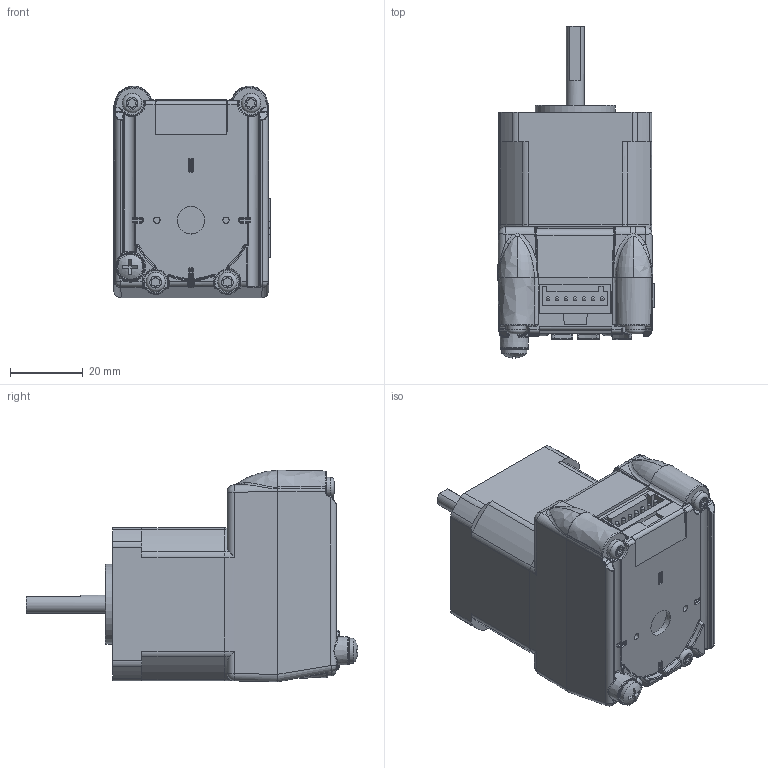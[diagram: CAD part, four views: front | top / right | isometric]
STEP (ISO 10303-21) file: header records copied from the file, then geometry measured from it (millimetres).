
FILE_DESCRIPTION(('MDrive17Plus_Std_Motor_Double.stp'),'1');
FILE_NAME('T:/Kubotek Models For Design Assemblies/3D Step File Models Posted on-line/MDrive17 Plus Motors/MDrive17Plus_Std_Motor_Double.stp', '2016-05-25T19:27:42',('P. Bordua, 05/25/16'), ('Schneider Electric Motion USA'), 'KCM Version 1.1.1406.0', 'Kubotek KeyCreator', 'Kubotek KeyCreator');
FILE_SCHEMA(('AUTOMOTIVE_DESIGN'));
Length unit declared in the file: inch
Bounding box: 43.15 x 91.52 x 58.35 mm (x, y, z)
Volume: 121535.8 mm3; surface area: 17345.3 mm2
Topology: 1 solids, 20 shells, 917 faces, 2328 edges, 1449 vertices
Faces by surface type: plane 325, cylinder 271, bspline 220, cone 40, torus 35, sphere 26
Full cylindrical faces by diameter (mm): 1.041 x7, 2.5 x4, 4.999 x1, 5.385 x4, 6.858 x1, 7.315 x2, 7.62 x1, 9.525 x1, 21.996 x1
Entity records: 55032 total; most frequent: CARTESIAN_POINT 32403, ORIENTED_EDGE 4642, DIRECTION 3851, EDGE_CURVE 2309, AXIS2_PLACEMENT_3D 1460, VERTEX_POINT 1449, EDGE_LOOP 960, VECTOR 931
